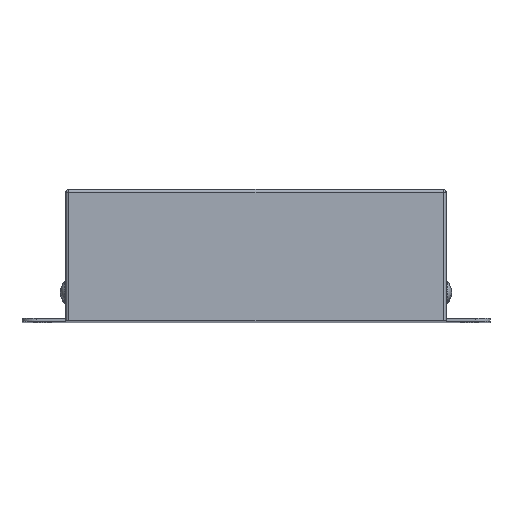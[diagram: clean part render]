
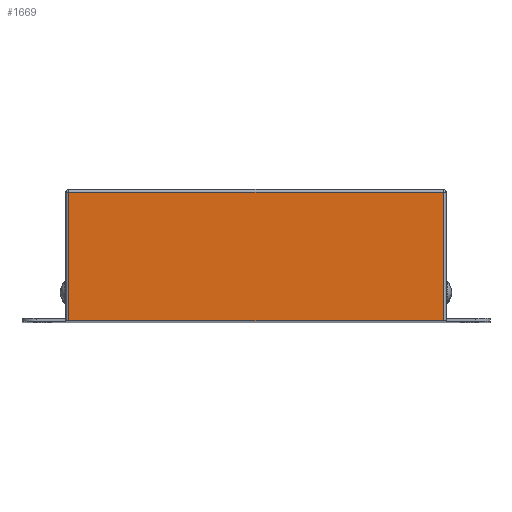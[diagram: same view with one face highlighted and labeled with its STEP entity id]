
A CAD part, top view. The second image highlights one B-rep face of the part: STEP entity #1669.
In plain terms, the highlighted planar face has unit normal (0, 0, 1).
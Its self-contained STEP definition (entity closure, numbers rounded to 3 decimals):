
#21 = CARTESIAN_POINT ( 'NONE',  ( -64., 0., 165. ) ) ;
#103 = CARTESIAN_POINT ( 'NONE',  ( -65., 44., 165. ) ) ;
#166 = ORIENTED_EDGE ( 'NONE', *, *, #1329, .T. ) ;
#183 = VERTEX_POINT ( 'NONE', #649 ) ;
#473 = VERTEX_POINT ( 'NONE', #2613 ) ;
#510 = ORIENTED_EDGE ( 'NONE', *, *, #2190, .T. ) ;
#519 = CARTESIAN_POINT ( 'NONE',  ( 64., 0., 165. ) ) ;
#649 = CARTESIAN_POINT ( 'NONE',  ( 64., 44., 165. ) ) ;
#836 = DIRECTION ( 'NONE',  ( 0., -1., 0. ) ) ;
#847 = CARTESIAN_POINT ( 'NONE',  ( -64., 44., 165. ) ) ;
#943 = VERTEX_POINT ( 'NONE', #847 ) ;
#1080 = EDGE_CURVE ( 'NONE', #183, #943, #1302, .T. ) ;
#1120 = DIRECTION ( 'NONE',  ( 0., 1., 0. ) ) ;
#1201 = ORIENTED_EDGE ( 'NONE', *, *, #1080, .T. ) ;
#1220 = VECTOR ( 'NONE', #1120, 1000. ) ;
#1297 = LINE ( 'NONE', #1320, #2464 ) ;
#1302 = LINE ( 'NONE', #103, #2340 ) ;
#1320 = CARTESIAN_POINT ( 'NONE',  ( -65., 0., 165. ) ) ;
#1321 = DIRECTION ( 'NONE',  ( 1., 0., 0. ) ) ;
#1329 = EDGE_CURVE ( 'NONE', #943, #2081, #2404, .T. ) ;
#1384 = CARTESIAN_POINT ( 'NONE',  ( -65., 0., 165. ) ) ;
#1519 = DIRECTION ( 'NONE',  ( 0., 0., 1. ) ) ;
#1669 = ADVANCED_FACE ( 'NONE', ( #2524 ), #2510, .T. ) ;
#1712 = EDGE_LOOP ( 'NONE', ( #510, #2148, #1201, #166 ) ) ;
#1731 = DIRECTION ( 'NONE',  ( -1., 0., 0. ) ) ;
#2081 = VERTEX_POINT ( 'NONE', #2468 ) ;
#2097 = DIRECTION ( 'NONE',  ( 1., 0., 0. ) ) ;
#2143 = EDGE_CURVE ( 'NONE', #473, #183, #2522, .T. ) ;
#2148 = ORIENTED_EDGE ( 'NONE', *, *, #2143, .T. ) ;
#2172 = VECTOR ( 'NONE', #836, 1000. ) ;
#2184 = AXIS2_PLACEMENT_3D ( 'NONE', #1384, #1519, #1321 ) ;
#2190 = EDGE_CURVE ( 'NONE', #2081, #473, #1297, .T. ) ;
#2340 = VECTOR ( 'NONE', #1731, 1000. ) ;
#2404 = LINE ( 'NONE', #21, #2172 ) ;
#2464 = VECTOR ( 'NONE', #2097, 1000. ) ;
#2468 = CARTESIAN_POINT ( 'NONE',  ( -64., 0., 165. ) ) ;
#2510 = PLANE ( 'NONE',  #2184 ) ;
#2522 = LINE ( 'NONE', #519, #1220 ) ;
#2524 = FACE_OUTER_BOUND ( 'NONE', #1712, .T. ) ;
#2613 = CARTESIAN_POINT ( 'NONE',  ( 64., 0., 165. ) ) ;
